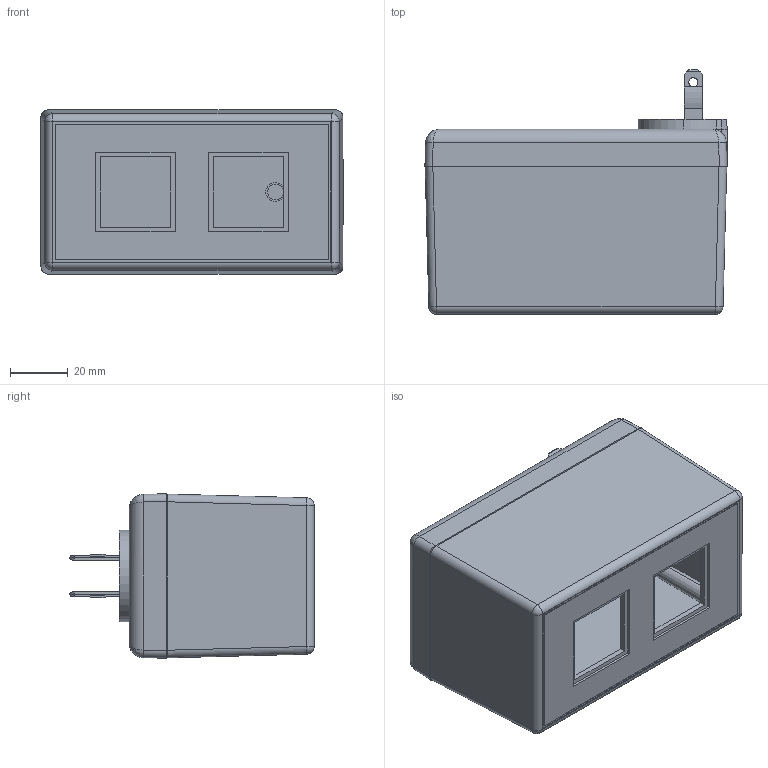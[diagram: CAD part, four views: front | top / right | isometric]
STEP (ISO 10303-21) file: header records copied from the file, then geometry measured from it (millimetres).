
FILE_DESCRIPTION (( 'STEP AP203' ), '1' );
FILE_NAME ('PM2425T22XNT.STEP', '2010-07-15T14:21:07', ( '' ), ( '' ), 'SwSTEP 2.0', 'SolidWorks 2010', '' );
FILE_SCHEMA (( 'CONFIG_CONTROL_DESIGN' ));
Length unit declared in the file: inch
Products named in the file (8): PM2425T22XNT; TS-2420B AND PM2420_PM2420T2; B2405 ASS''Y_B24052XNT; MPB2405_MPB24052NT; BLADES; WELD DISC-PS-BK; SCREWS-HL1-BR; B2405-PCB
Assembly tree (11 placements, depth 3):
  PM2425T22XNT
    SCREWS-HL1-BR  x4
    B2405-PCB
    TS-2420B AND PM2420_PM2420T2
    B2405 ASS''Y_B24052XNT
      BLADES  x2
      MPB2405_MPB24052NT
      WELD DISC-PS-BK
Bounding box: 104.6 x 84.55 x 56.95 mm (x, y, z)
Volume: 85808.4 mm3; surface area: 80351.8 mm2
Topology: 10 solids, 10 shells, 897 faces, 2499 edges, 1632 vertices
Faces by surface type: cylinder 486, plane 290, cone 77, bspline 28, sphere 12, torus 4
Entity records: 19364 total; most frequent: CARTESIAN_POINT 6194, ORIENTED_EDGE 2712, DIRECTION 2410, EDGE_CURVE 1356, VERTEX_POINT 882, AXIS2_PLACEMENT_3D 837, LINE 736, VECTOR 736
